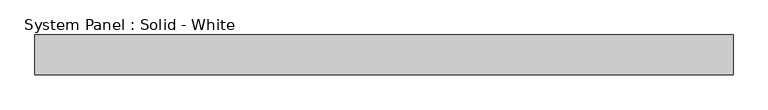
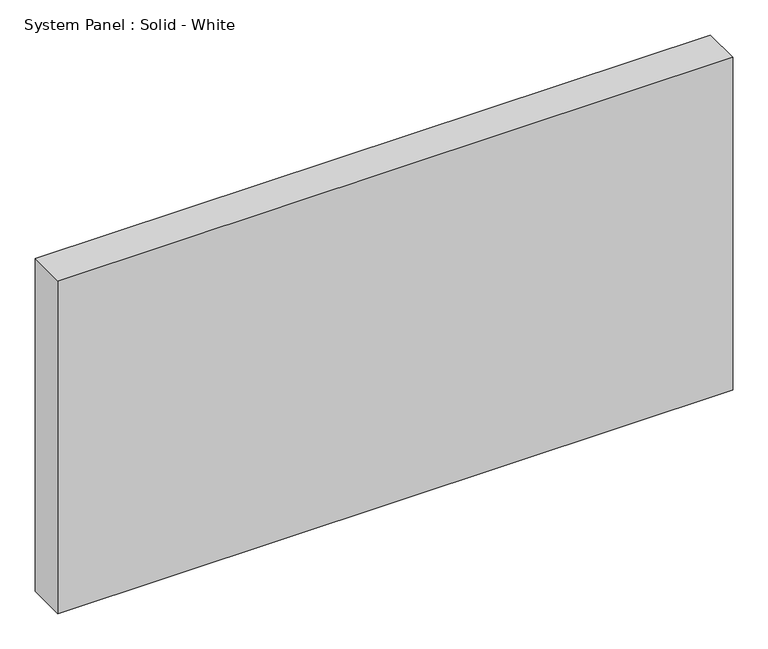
"""IFC4 building model written with IfcOpenShell, lengths in millimetres: plate geometry, System Panel : Solid - White."""

import ifcopenshell
import ifcopenshell.guid

model = None  # the IFC model being written
_history = None  # IfcOwnerHistory: only IFC2X3 demands one
_inside = {}  # id of a spatial element -> (the spatial element, [elements in it])
_under = {}  # id of a project, library or spatial element -> (it, [spatial elements below it])
_declared = {}  # id of a project -> (the project, [libraries it declares])
_typed = {}  # id of a type object -> (the type object, [elements of that type])
_made_of = {}  # id of a material, layer set ... -> (it, [elements and type objects made of it])


def new_model(schema):
    """Start an empty IFC model of exactly this schema.

    Asked for "IFC4X3", IfcOpenShell would pick the latest addendum, in which some entities
    have other attributes; the version numbers below select the first issue.
    IFC2X3 requires an IfcOwnerHistory on every rooted entity: one is made here for all.
    """
    global model, _history
    if schema == "IFC4X3":
        model = ifcopenshell.file(schema_version=(4, 3, 0, 0))
    else:
        model = ifcopenshell.file(schema=schema)
    _inside.clear()
    _under.clear()
    _declared.clear()
    _typed.clear()
    _made_of.clear()
    _history = None
    if model.schema == "IFC2X3":
        org = make("IfcOrganization", Name="unknown")
        user = make(
            "IfcPersonAndOrganization",
            ThePerson=make("IfcPerson", FamilyName="unknown"),
            TheOrganization=org,
        )
        app = make(
            "IfcApplication",
            ApplicationDeveloper=org,
            Version="unknown",
            ApplicationFullName="unknown",
            ApplicationIdentifier="unknown",
        )
        _history = make(
            "IfcOwnerHistory",
            OwningUser=user,
            OwningApplication=app,
            ChangeAction="ADDED",
            CreationDate=0,
        )
    return model


def make(cls, **values):
    """One entity of the class cls with the attributes given. An attribute that is None is left unset."""
    return model.create_entity(
        cls, **{name: value for name, value in values.items() if value is not None}
    )


def rooted(cls, **values):
    """An entity with a GlobalId (a new one), such as an element, a storey or a relation."""
    return make(cls, GlobalId=ifcopenshell.guid.new(), OwnerHistory=_history, **values)


def si_unit(unit_type, name, prefix=None):
    """IfcSIUnit, for example si_unit("LENGTHUNIT", "METRE", prefix="MILLI")."""
    return make("IfcSIUnit", UnitType=unit_type, Prefix=prefix, Name=name)


def assignment(units):
    """IfcUnitAssignment: the units of a project."""
    return None if units is None else make("IfcUnitAssignment", Units=units)


def point(xyz):
    """IfcCartesianPoint."""
    return None if xyz is None else make("IfcCartesianPoint", Coordinates=xyz)


def direction(xyz):
    """IfcDirection."""
    return None if xyz is None else make("IfcDirection", DirectionRatios=xyz)


def frame(location, z_axis=None, x_axis=None):
    """IfcAxis2Placement3D, a coordinate frame: its origin and axes. An axis left out is left unset."""
    return make(
        "IfcAxis2Placement3D",
        Location=point(location),
        Axis=direction(z_axis),
        RefDirection=direction(x_axis),
    )


def origin():
    """The frame at (0, 0, 0) with its axes left unset."""
    return frame((0.0, 0.0, 0.0))


def origin_with_axes():
    """The frame at (0, 0, 0) with the z axis (0, 0, 1) and the x axis (1, 0, 0) written out."""
    return frame((0.0, 0.0, 0.0), z_axis=(0.0, 0.0, 1.0), x_axis=(1.0, 0.0, 0.0))


def place(relative_to, where):
    """IfcLocalPlacement: puts the frame where relative to a parent placement (None: the world)."""
    return make(
        "IfcLocalPlacement", PlacementRelTo=relative_to, RelativePlacement=where
    )


def context(
    kind, dimensions, precision=None, world=None, true_north=None, identifier=None
):
    """IfcGeometricRepresentationContext, for example the 3D "Model" context."""
    return make(
        "IfcGeometricRepresentationContext",
        ContextIdentifier=identifier,
        ContextType=kind,
        CoordinateSpaceDimension=dimensions,
        Precision=precision,
        WorldCoordinateSystem=world,
        TrueNorth=true_north,
    )


def project(units=None, contexts=None):
    """IfcProject with its units and contexts."""
    return rooted(
        "IfcProject",
        Name="project",
        RepresentationContexts=contexts,
        UnitsInContext=assignment(units),
    )


def spatial(cls, under=None, at=None, **own):
    """A site, building, storey or space (cls), placed at a placement, below another one or the project."""
    s = rooted(cls, ObjectPlacement=at, **own)
    if under is not None:
        _under.setdefault(under.id(), (under, []))[1].append(s)
    return s


def polyline(points):
    """IfcPolyline through the points."""
    return make("IfcPolyline", Points=[point(p) for p in points])


def outline(outer, holes=None, kind="AREA"):
    """IfcArbitraryClosedProfileDef: a profile drawn as a closed curve; with holes, ...WithVoids."""
    if holes is None:
        return make("IfcArbitraryClosedProfileDef", ProfileType=kind, OuterCurve=outer)
    return make(
        "IfcArbitraryProfileDefWithVoids",
        ProfileType=kind,
        OuterCurve=outer,
        InnerCurves=holes,
    )


def extrude(swept, where, along, depth):
    """IfcExtrudedAreaSolid: the profile swept, set in the frame where, extruded along a direction by depth."""
    return make(
        "IfcExtrudedAreaSolid",
        SweptArea=swept,
        Position=where,
        ExtrudedDirection=direction(along),
        Depth=depth,
    )


def shape(context_of_items, identifier, shape_type, items):
    """IfcShapeRepresentation: the items that make up one representation, for example the "Body"."""
    return make(
        "IfcShapeRepresentation",
        ContextOfItems=context_of_items,
        RepresentationIdentifier=identifier,
        RepresentationType=shape_type,
        Items=items,
    )


def source(mapping_origin, context_of_items, identifier, shape_type, items):
    """IfcRepresentationMap: a shape defined once, which mapped items show again and again."""
    return make(
        "IfcRepresentationMap",
        MappingOrigin=mapping_origin,
        MappedRepresentation=shape(context_of_items, identifier, shape_type, items),
    )


def transform(
    local_origin,
    x_axis=None,
    y_axis=None,
    z_axis=None,
    scale=None,
    scale2=None,
    scale3=None,
    uniform=True,
):
    """IfcCartesianTransformationOperator3D, or its non-uniform kind. x_axis, y_axis, z_axis: its Axis1, 2, 3."""
    if uniform:
        return make(
            "IfcCartesianTransformationOperator3D",
            Axis1=direction(x_axis),
            Axis2=direction(y_axis),
            LocalOrigin=point(local_origin),
            Scale=scale,
            Axis3=direction(z_axis),
        )
    return make(
        "IfcCartesianTransformationOperator3DnonUniform",
        Axis1=direction(x_axis),
        Axis2=direction(y_axis),
        LocalOrigin=point(local_origin),
        Scale=scale,
        Axis3=direction(z_axis),
        Scale2=scale2,
        Scale3=scale3,
    )


def mapped(mapping_source, mapping_target):
    """IfcMappedItem: shows the shape of a source again, moved by a transform."""
    return make(
        "IfcMappedItem", MappingSource=mapping_source, MappingTarget=mapping_target
    )


def made_of(thing, what):
    """Note that an element or type object is made of a material, layer set ...; save() writes the relation."""
    if what is not None:
        _made_of.setdefault(what.id(), (what, []))[1].append(thing)
    return thing


def element(
    cls,
    number,
    at=None,
    inside=None,
    cuts=None,
    type_object=None,
    material=None,
    context=None,
    identifier="Body",
    shape_type=None,
    held_by="IfcProductDefinitionShape",
    body=None,
    shapes=None,
    **own,
):
    """One element of the class cls, such as IfcWall. Its Tag is "e" and its number.

    at: its placement. inside: the storey or other place that contains it. cuts: it is an
    opening in that element (IfcRelVoidsElement). A single representation is given by context,
    identifier, shape_type and body (its items); several are given by shapes. held_by: the class
    of the entity that holds the representations. save() writes the other relations.
    """
    e = rooted(cls, Tag="e%d" % number, ObjectPlacement=at, **own)
    if body is not None:
        shapes = [shape(context, identifier, shape_type, body)]
    if shapes is not None:
        e.Representation = make(held_by, Representations=shapes)
    if inside is not None:
        _inside.setdefault(inside.id(), (inside, []))[1].append(e)
    if cuts is not None:
        rooted(
            "IfcRelVoidsElement", RelatingBuildingElement=cuts, RelatedOpeningElement=e
        )
    if type_object is not None:
        _typed.setdefault(type_object.id(), (type_object, []))[1].append(e)
    return made_of(e, material)


def aggregate(whole, parts):
    """IfcRelAggregates: a whole, such as a stair, and the parts it consists of."""
    return rooted("IfcRelAggregates", RelatingObject=whole, RelatedObjects=parts)


def save(model, path):
    """Write the relations noted so far, then the file.

    IfcRelAggregates (storeys below a building ...), IfcRelContainedInSpatialStructure (elements
    in a storey), IfcRelDefinesByType, IfcRelAssociatesMaterial and IfcRelDeclares: one each for
    every whole, place, type object, material and project.
    """
    for whole, parts in _under.values():
        aggregate(whole, parts)
    for where, things in _inside.values():
        rooted(
            "IfcRelContainedInSpatialStructure",
            RelatedElements=things,
            RelatingStructure=where,
        )
    for kind, things in _typed.values():
        rooted("IfcRelDefinesByType", RelatedObjects=things, RelatingType=kind)
    for what, things in _made_of.values():
        rooted("IfcRelAssociatesMaterial", RelatedObjects=things, RelatingMaterial=what)
    for by, libraries in _declared.values():
        rooted("IfcRelDeclares", RelatingContext=by, RelatedDefinitions=libraries)
    model.write(path)


def system_panel_solid_white_3036c504(model_context):
    return source(origin(), model_context, "Body", "SweptSolid", [
        extrude(outline(polyline([(554.049092, -19.05), (-554.049092, -19.05), (-554.049092, 44.45), (554.049092, 44.45), (554.049092, -19.05)])), origin_with_axes(), (0.0, 0.0, 1.0), 577.85),
    ])


if __name__ == "__main__":
    model = new_model("IFC4")
    model_context = context("Model", 3, world=origin())
    ifc_project = project(units=[si_unit("LENGTHUNIT", "METRE", prefix="MILLI")], contexts=[model_context])
    site = spatial("IfcSite", under=ifc_project)
    building = spatial("IfcBuilding", under=site)
    placement = place(None, origin())
    system_panel_solid_white_shape = system_panel_solid_white_3036c504(model_context)
    element("IfcPlate", 1, ObjectType="System Panel : Solid - White", at=placement, inside=building, context=model_context, shape_type="MappedRepresentation", body=[
        mapped(system_panel_solid_white_shape, transform((0.0, 0.0, 0.0), x_axis=(1.0, 0.0, 0.0), y_axis=(0.0, 1.0, 0.0), z_axis=(0.0, 0.0, 1.0))),
    ])
    save(model, "model.ifc")
